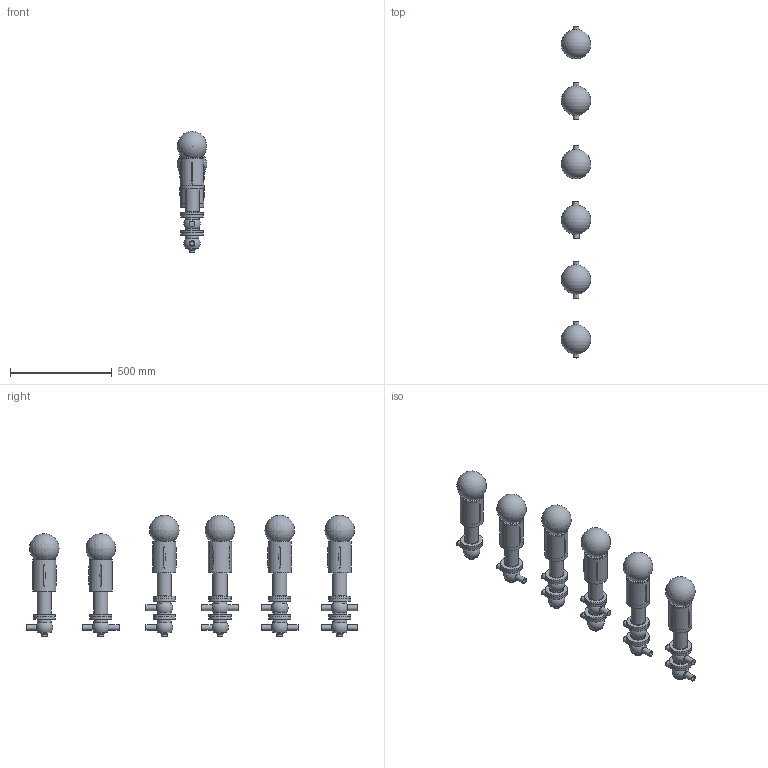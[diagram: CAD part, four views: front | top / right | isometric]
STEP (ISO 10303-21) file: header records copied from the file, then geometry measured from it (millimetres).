
FILE_DESCRIPTION(/* description */ (''),/* implementation_level */ '2;1');
FILE_NAME(/* name */ 'C:\Users\marz-m\Desktop\PDF\BBZQ 3D STEP\BBZQ-DN25-CIL.108.stp',/* time_stamp */ '2018-04-13T14:16:13+02:00',/* author */ ('marz-m'),/* organization */ (''),/* preprocessor_version */ 'ST-DEVELOPER v17',/* originating_system */ 'Autodesk Inventor 2018',/* authorisation */ '');
FILE_SCHEMA (('AUTOMOTIVE_DESIGN { 1 0 10303 214 3 1 1 }'));
Length unit declared in the file: millimetre
Products named in the file (8): BBZQ-CIL.108-DN25; COR-INF-L-BBZQ-DN028X2.5-SALD; COR-INF-T-BBZQ-DN028X2.5-SALD; assemblaggio dn40 per cil 108-156; CIL108; SAGOMA-GIOTTO-; CORPO-SUP-SUP-BBZQ-L-DN28X2.5-SALD; CORPO-SUP-SUP-BBZQ-T-DN28X2.5-SALD
Assembly tree (28 placements, depth 2):
  BBZQ-CIL.108-DN25
    COR-INF-L-BBZQ-DN028X2.5-SALD  x3
    COR-INF-T-BBZQ-DN028X2.5-SALD  x3
    assemblaggio dn40 per cil 108-156  x6
    CIL108  x6
    SAGOMA-GIOTTO-  x6
    CORPO-SUP-SUP-BBZQ-L-DN28X2.5-SALD  x2
    CORPO-SUP-SUP-BBZQ-T-DN28X2.5-SALD  x2
Bounding box: 144.47 x 1630.17 x 595.47 mm (x, y, z)
Volume: 19683767.9 mm3; surface area: 2098209.1 mm2
Topology: 28 solids, 34 shells, 378 faces, 936 edges, 700 vertices
Faces by surface type: plane 118, cylinder 105, cone 66, torus 62, sphere 27
Full cylindrical faces by diameter (mm): 20 x12, 23 x14, 28 x21, 68 x20, 69 x6, 108.5 x6, 109 x20, 114 x6
Entity records: 4020 total; most frequent: CARTESIAN_POINT 1062, DIRECTION 638, ORIENTED_EDGE 492, AXIS2_PLACEMENT_3D 300, EDGE_CURVE 246, VERTEX_POINT 184, CIRCLE 162, EDGE_LOOP 126
